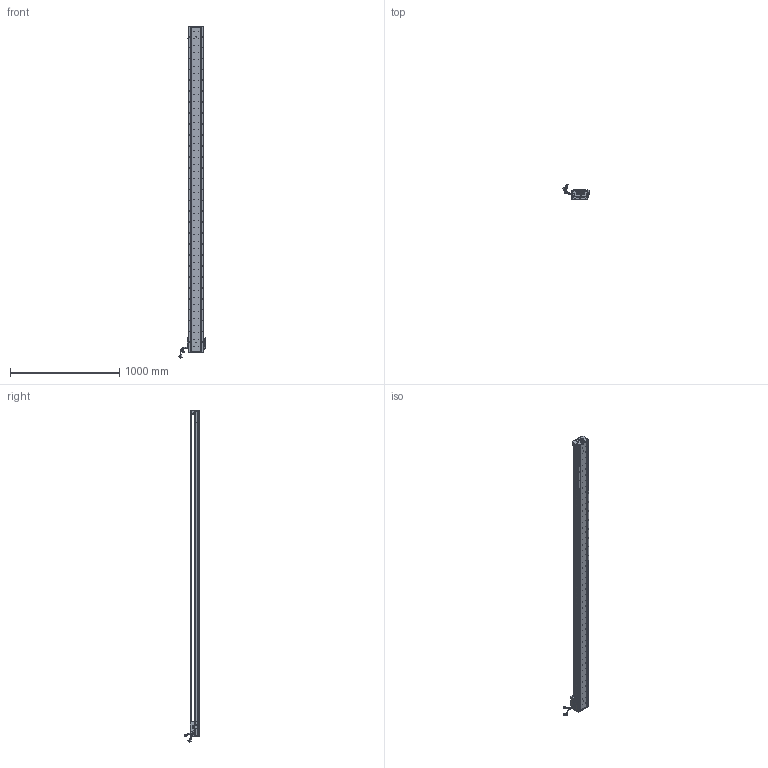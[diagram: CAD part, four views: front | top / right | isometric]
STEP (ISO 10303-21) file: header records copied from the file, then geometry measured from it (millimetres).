
FILE_DESCRIPTION (( 'STEP AP203' ), '1' );
FILE_NAME ('Z1-RY140D-1-L500-B-K.SLDASM_2800.step', '2021-05-17T07:36:40', ( '盈信电脑' ), ( '东莞市道滘镇水果街19号' ), 'SwSTEP 2.0', 'SolidWorks 2016', '' );
FILE_SCHEMA (( 'CONFIG_CONTROL_DESIGN' ));
Length unit declared in the file: millimetre
Products named in the file (36): 140雄赽晤鎢ん堤盄; COVER; SHIELDPLATE; Z-RY140詩湍狟揤裔; Z-RY140詩湍奻揤裔; PSLH080_PSLF2; SEAL; LABEL; 080黍杅芛假蚾釱21遴; PBU_SHEET; HARNESS-Part-1; SCREW-M1.6; SCALE-Part-2; SEAL-Part-1; SCREW-M1.6-3; HARNESS; Z1-RY140D-1-L500-B-K.SLDASM_2800; SCREW-M1.6-1; 140-Z-臏賑輸盄裔(21遴); Z1-RY140-L500直线电机模组底座_2800; LABEL-Part-1; SCALE-Part-1; HOLDER0; Z1-RY140圉猾敕臏賑輸(21遴); HARNESS-Part-2; SCREW-M1.6-2; SCREW-M1.7; 榋妏寠巭燃_暯_M2_2; SCREW-M1.7-1; 140蚥薯蝶輸; Z-140詩湍傷裔啣; SCALE; Z-RY140感应器672光电感应片; COVER-Part-1; 覜茼ん672; Z1-RY140-L500詩湍100mm遵_2800
Assembly tree (41 placements, depth 4):
  Z1-RY140D-1-L500-B-K.SLDASM_2800
    Z1-RY140-L500直线电机模组底座_2800
    Z-RY140感应器672光电感应片
    Z1-RY140圉猾敕臏賑輸(21遴)
    覜茼ん672  x3
    Z1-RY140-L500詩湍100mm遵_2800
    PSLH080_PSLF2
      SCALE
        SCALE-Part-1
        SCALE-Part-2
      HARNESS
        HARNESS-Part-1
        HARNESS-Part-2
      LABEL
        LABEL-Part-1
      COVER
        COVER-Part-1
      SEAL
        SEAL-Part-1
      榋妏寠巭燃_暯_M2_2
      SHIELDPLATE
      SCREW-M1.7
      SCREW-M1.7-1
      PBU_SHEET
      SCREW-M1.6
      SCREW-M1.6-1
      SCREW-M1.6-2
      SCREW-M1.6-3
      HOLDER0
    080黍杅芛假蚾釱21遴
    140-Z-臏賑輸盄裔(21遴)
    Z-140詩湍傷裔啣  x2
    Z-RY140詩湍狟揤裔  x2
    Z-RY140詩湍奻揤裔  x2
    140蚥薯蝶輸  x2
    140雄赽晤鎢ん堤盄
Bounding box: 239.79 x 143.88 x 3040.87 mm (x, y, z)
Volume: 9212642.7 mm3; surface area: 2440034.7 mm2
Topology: 36 solids, 36 shells, 4262 faces, 11664 edges, 7395 vertices
Faces by surface type: cylinder 2342, plane 1400, cone 398, torus 69, bspline 53
Entity records: 136804 total; most frequent: CARTESIAN_POINT 39433, ORIENTED_EDGE 20224, DIRECTION 18460, EDGE_CURVE 10112, AXIS2_PLACEMENT_3D 6854, VERTEX_POINT 6563, LINE 4752, VECTOR 4752
